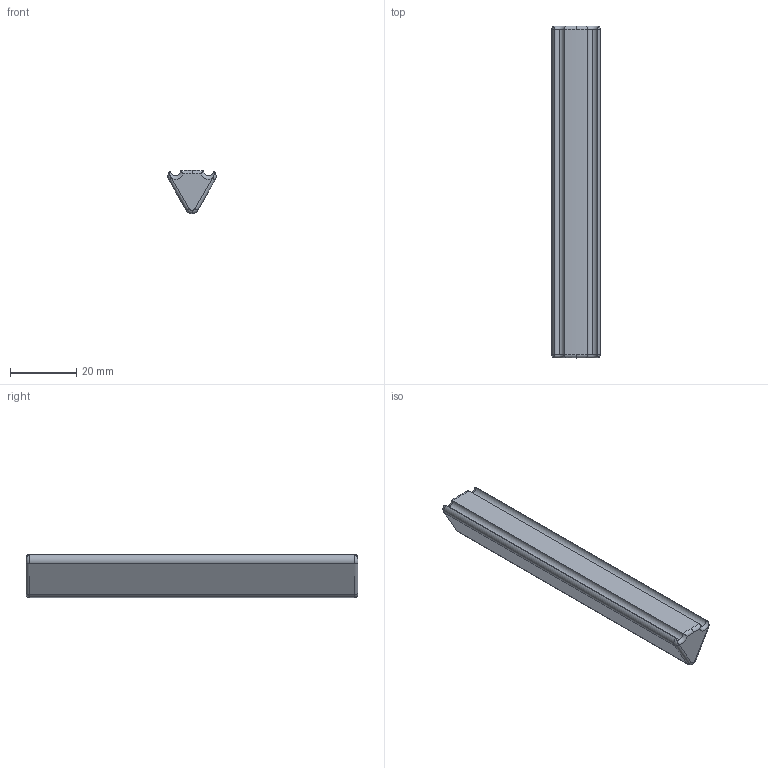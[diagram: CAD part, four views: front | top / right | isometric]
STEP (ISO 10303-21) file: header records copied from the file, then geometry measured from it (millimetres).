
FILE_DESCRIPTION (( 'STEP AP203' ), '1' );
FILE_NAME ('drum_rib.STEP', '2019-07-18T16:12:37', ( '' ), ( '' ), 'SwSTEP 2.0', 'SolidWorks 2017', '' );
FILE_SCHEMA (( 'CONFIG_CONTROL_DESIGN' ));
Length unit declared in the file: millimetre
Products named in the file (1): drum_rib
Bounding box: 14.58 x 100 x 13 mm (x, y, z)
Volume: 11443.6 mm3; surface area: 4938.7 mm2
Topology: 1 solids, 1 shells, 33 faces, 75 edges, 44 vertices
Faces by surface type: torus 16, cylinder 13, plane 4
Entity records: 1078 total; most frequent: CARTESIAN_POINT 249, DIRECTION 175, ORIENTED_EDGE 150, AXIS2_PLACEMENT_3D 78, EDGE_CURVE 75, CIRCLE 44, VERTEX_POINT 44, EDGE_LOOP 33
